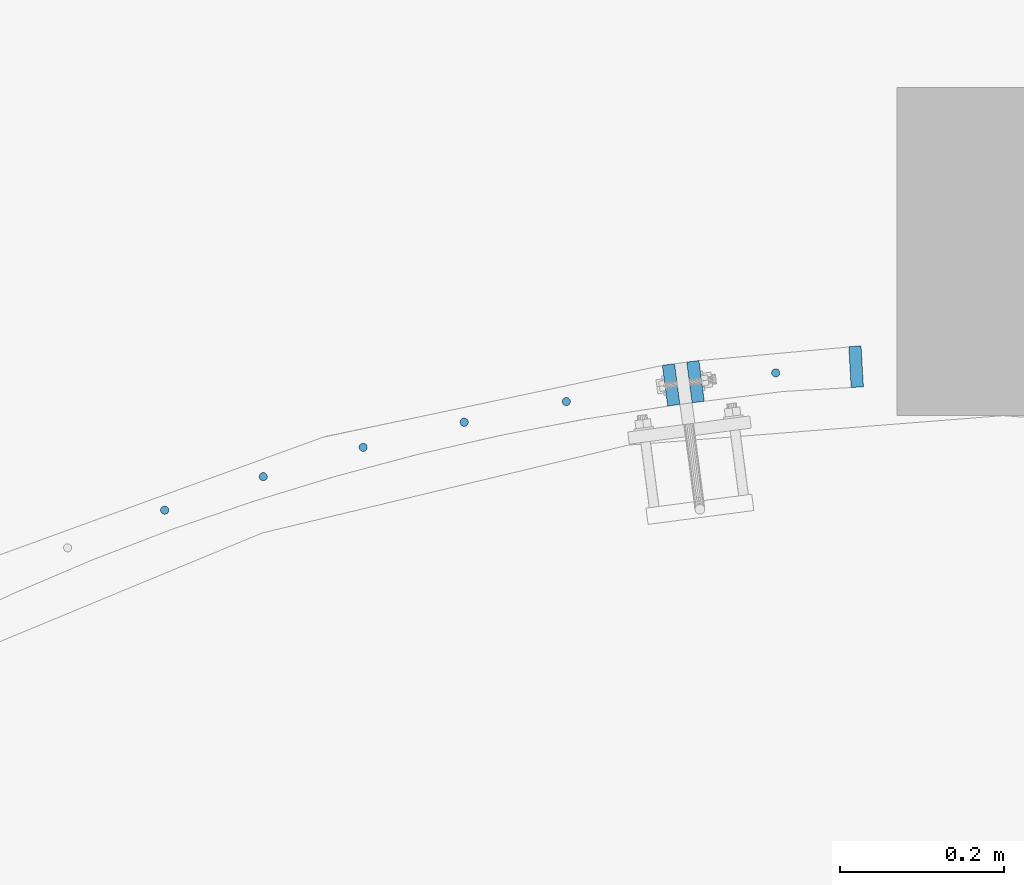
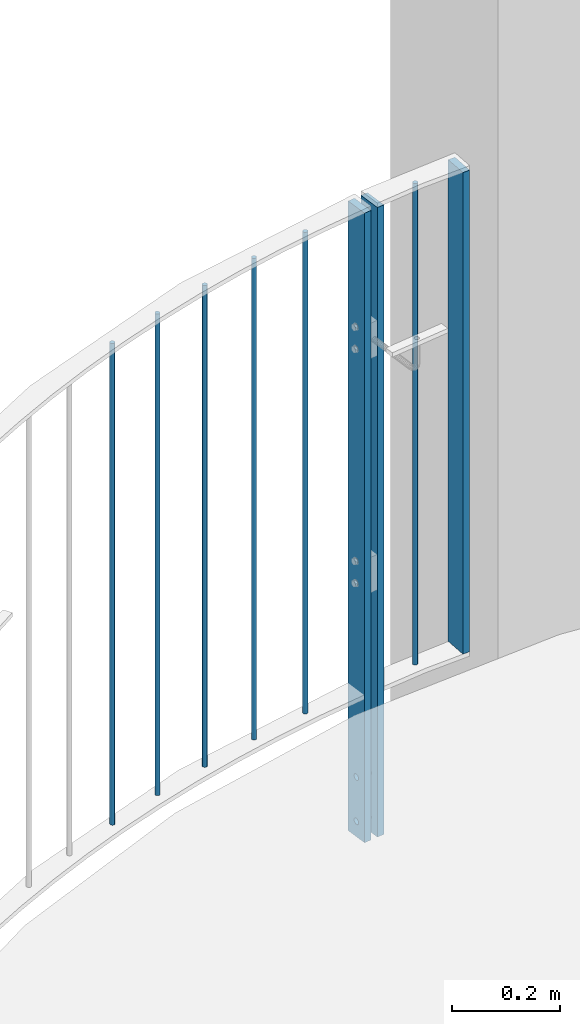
# One storey, part 72 of 296: 9 columns, 12 openings.
"""IFC2X3 building model written with IfcOpenShell, lengths in millimetres."""

from ifc_helpers import new_model, entity, si_unit, converted_unit, frame, frame_2d, origin, origin_with_axes, origin_2d, place, context, project, spatial, rectangle, circle, extrude, material, element, save


model = new_model("IFC2X3")

# Units and contexts
model_context = context("Model", 3, precision=1e-09, world=origin_with_axes())
ifc_project = project(units=[si_unit("LENGTHUNIT", "METRE", prefix="MILLI"), si_unit("AREAUNIT", "SQUARE_METRE"), si_unit("VOLUMEUNIT", "CUBIC_METRE"), converted_unit("PLANEANGLEUNIT", "DEGREE", entity("IfcPlaneAngleMeasure", 0.01745329), si_unit("PLANEANGLEUNIT", "RADIAN"), dimensions=[0, 0, 0, 0, 0, 0, 0])], contexts=[model_context])

# Site, building, storey
site_placement = place(None, origin_with_axes())
site = spatial("IfcSite", under=ifc_project, at=site_placement, Name="TZD-S?d | Treppenhausgel?nder", CompositionType="ELEMENT")
building_placement = place(site_placement, origin_with_axes())
building = spatial("IfcBuilding", under=site, at=building_placement, Name="Struktur 1", CompositionType="ELEMENT")
storey_placement = place(building_placement, origin_with_axes())
storey = spatial("IfcBuildingStorey", under=building, at=storey_placement, Name="Default Storey", CompositionType="ELEMENT", Elevation=0.0)

# Columns
ifc_material = material(Name="S235JR")
for number, where, z_axis, x_axis in (
    (1, (1902.351515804, 2709.675167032, 2450.0), (0.0, 0.0, 1.0), (0.766044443, 0.64278761, 0.0)),
    (2, (2022.547426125, 2750.554570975, 2450.0), (0.0, 0.0, 1.0), (0.766044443, 0.64278761, 0.0)),
    (3, (2144.370361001, 2786.294675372, 2450.0), (0.0, 0.0, 1.0), (0.766044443, 0.64278761, 0.0)),
    (4, (2267.600684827, 2816.831044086, 2450.0), (0.0, 0.0, 1.0), (0.766044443, 0.64278761, 0.0)),
    (5, (2392.016224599, 2842.108622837, 2450.0), (0.0, 0.0, 1.0), (0.766044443, 0.64278761, 0.0)),
    (6, (2647.31876453, 2877.077951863, 2450.0), (0.0, 0.0, 1.0), (0.0, 1.0, 0.0)),
):
    element("IfcColumn", number, at=place(None, frame(where, z_axis=z_axis, x_axis=x_axis)), inside=storey, material=ifc_material, Name="-", ObjectType="-", context=model_context, shape_type="SweptSolid", body=[
        extrude(circle(Radius=5.0, at=origin_2d()), origin(), (0.0, 0.0, 1.0), 1090.0),
    ])
column_1_placement = place(None, frame((2745.395995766, 2884.610301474, 3540.0), z_axis=(0.0, 0.0, 1.0), x_axis=(-0.998341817, -0.057564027, 0.0)))
element("IfcColumn", 7, at=column_1_placement, inside=storey, material=ifc_material, Name="-", ObjectType="-", context=model_context, shape_type="SweptSolid", body=[
    extrude(rectangle(XDim=15.0, YDim=50.0, at=origin_2d()), origin(), (0.0, 0.0, -1.0), 1090.0),
])

# Column, openings
column_2_placement = place(None, frame((2549.598358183, 2866.378028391, 2115.001), z_axis=(0.0, 0.0, -1.0), x_axis=(-0.991444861, -0.130526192, 0.0)))
column_2 = element("IfcColumn", 8, at=column_2_placement, inside=storey, material=ifc_material, Name="-", ObjectType="-", context=model_context, shape_type="SweptSolid", body=[
    extrude(rectangle(XDim=15.0, YDim=50.0, at=origin_2d()), origin(), (0.0, 0.0, -1.0), 1424.999),
])
opening_1_placement = place(column_2_placement, frame((-8.0, 0.0, -599.999999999), z_axis=(1.0, 0.0, 0.0), x_axis=(0.0, -1.0, 0.0)))
element("IfcOpeningElement", 9, at=opening_1_placement, cuts=column_2, ObjectType="Opening", context=model_context, shape_type="SweptSolid", body=[
    extrude(circle(Radius=5.001, at=frame_2d((0.0, 25.0), x_axis=(1.0, 0.0))), origin(), (0.0, 0.0, 1.0), 16.0),
])
opening_2_placement = place(column_2_placement, frame((-8.0, 0.0, -599.999999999), z_axis=(1.0, 0.0, 0.0), x_axis=(0.0, -1.0, 0.0)))
element("IfcOpeningElement", 10, at=opening_2_placement, cuts=column_2, ObjectType="Opening", context=model_context, shape_type="SweptSolid", body=[
    extrude(circle(Radius=5.001, at=frame_2d((0.0, -25.0), x_axis=(1.0, 0.0))), origin(), (0.0, 0.0, 1.0), 16.0),
])
opening_3_placement = place(column_2_placement, frame((-8.0, 0.0, -1129.999999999), z_axis=(1.0, 0.0, 0.0), x_axis=(0.0, -1.0, 0.0)))
element("IfcOpeningElement", 11, at=opening_3_placement, cuts=column_2, ObjectType="Opening", context=model_context, shape_type="SweptSolid", body=[
    extrude(circle(Radius=5.001, at=frame_2d((0.0, 25.0), x_axis=(1.0, 0.0))), origin(), (0.0, 0.0, 1.0), 16.0),
])
opening_4_placement = place(column_2_placement, frame((-8.0, 0.0, -1129.999999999), z_axis=(1.0, 0.0, 0.0), x_axis=(0.0, -1.0, 0.0)))
element("IfcOpeningElement", 12, at=opening_4_placement, cuts=column_2, ObjectType="Opening", context=model_context, shape_type="SweptSolid", body=[
    extrude(circle(Radius=5.001, at=frame_2d((0.0, -25.0), x_axis=(1.0, 0.0))), origin(), (0.0, 0.0, 1.0), 16.0),
])
opening_5_placement = place(column_2_placement, frame((-8.0, 0.0, -85.0), z_axis=(1.0, 0.0, 0.0), x_axis=(0.0, -1.0, 0.0)))
element("IfcOpeningElement", 13, at=opening_5_placement, cuts=column_2, ObjectType="Opening", context=model_context, shape_type="SweptSolid", body=[
    extrude(circle(Radius=7.001, at=frame_2d((0.0, 50.0), x_axis=(1.0, 0.0))), origin(), (0.0, 0.0, 1.0), 16.0),
])
opening_6_placement = place(column_2_placement, frame((-8.0, 0.0, -85.0), z_axis=(1.0, 0.0, 0.0), x_axis=(0.0, -1.0, 0.0)))
element("IfcOpeningElement", 14, at=opening_6_placement, cuts=column_2, ObjectType="Opening", context=model_context, shape_type="SweptSolid", body=[
    extrude(circle(Radius=7.001, at=frame_2d((0.0, -50.0), x_axis=(1.0, 0.0))), origin(), (0.0, 0.0, 1.0), 16.0),
])

column_3_placement = place(None, frame((2519.855012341, 2862.462242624, 2115.001), z_axis=(0.0, 0.0, 1.0), x_axis=(0.991444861, 0.130526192, 0.0)))
column_3 = element("IfcColumn", 15, at=column_3_placement, inside=storey, material=ifc_material, Name="-", ObjectType="-", context=model_context, shape_type="SweptSolid", body=[
    extrude(rectangle(XDim=15.0, YDim=50.0, at=origin_2d()), origin(), (0.0, 0.0, 1.0), 1424.999),
])
opening_7_placement = place(column_3_placement, frame((8.0, 0.0, 1129.999999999), z_axis=(-1.0, 0.0, 0.0), x_axis=(0.0, -1.0, 0.0)))
element("IfcOpeningElement", 16, at=opening_7_placement, cuts=column_3, ObjectType="Opening", context=model_context, shape_type="SweptSolid", body=[
    extrude(circle(Radius=5.001, at=frame_2d((0.0, 25.0), x_axis=(1.0, 0.0))), origin(), (0.0, 0.0, 1.0), 16.0),
])
opening_8_placement = place(column_3_placement, frame((8.0, 0.0, 1129.999999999), z_axis=(-1.0, 0.0, 0.0), x_axis=(0.0, -1.0, 0.0)))
element("IfcOpeningElement", 17, at=opening_8_placement, cuts=column_3, ObjectType="Opening", context=model_context, shape_type="SweptSolid", body=[
    extrude(circle(Radius=5.001, at=frame_2d((0.0, -25.0), x_axis=(1.0, 0.0))), origin(), (0.0, 0.0, 1.0), 16.0),
])
opening_9_placement = place(column_3_placement, frame((8.0, 0.0, 85.0), z_axis=(-1.0, 0.0, 0.0), x_axis=(0.0, -1.0, 0.0)))
element("IfcOpeningElement", 18, at=opening_9_placement, cuts=column_3, ObjectType="Opening", context=model_context, shape_type="SweptSolid", body=[
    extrude(circle(Radius=7.001, at=frame_2d((0.0, 50.0), x_axis=(1.0, 0.0))), origin(), (0.0, 0.0, 1.0), 16.0),
])
opening_10_placement = place(column_3_placement, frame((8.0, 0.0, 85.0), z_axis=(-1.0, 0.0, 0.0), x_axis=(0.0, -1.0, 0.0)))
element("IfcOpeningElement", 19, at=opening_10_placement, cuts=column_3, ObjectType="Opening", context=model_context, shape_type="SweptSolid", body=[
    extrude(circle(Radius=7.001, at=frame_2d((0.0, -50.0), x_axis=(1.0, 0.0))), origin(), (0.0, 0.0, 1.0), 16.0),
])
opening_11_placement = place(column_3_placement, frame((8.0, 0.0, 599.999999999), z_axis=(-1.0, 0.0, 0.0), x_axis=(0.0, -1.0, 0.0)))
element("IfcOpeningElement", 20, at=opening_11_placement, cuts=column_3, ObjectType="Opening", context=model_context, shape_type="SweptSolid", body=[
    extrude(circle(Radius=5.001, at=frame_2d((0.0, 25.0), x_axis=(1.0, 0.0))), origin(), (0.0, 0.0, 1.0), 16.0),
])
opening_12_placement = place(column_3_placement, frame((8.0, 0.0, 599.999999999), z_axis=(-1.0, 0.0, 0.0), x_axis=(0.0, -1.0, 0.0)))
element("IfcOpeningElement", 21, at=opening_12_placement, cuts=column_3, ObjectType="Opening", context=model_context, shape_type="SweptSolid", body=[
    extrude(circle(Radius=5.001, at=frame_2d((0.0, -25.0), x_axis=(1.0, 0.0))), origin(), (0.0, 0.0, 1.0), 16.0),
])

save(model, "model.ifc")
